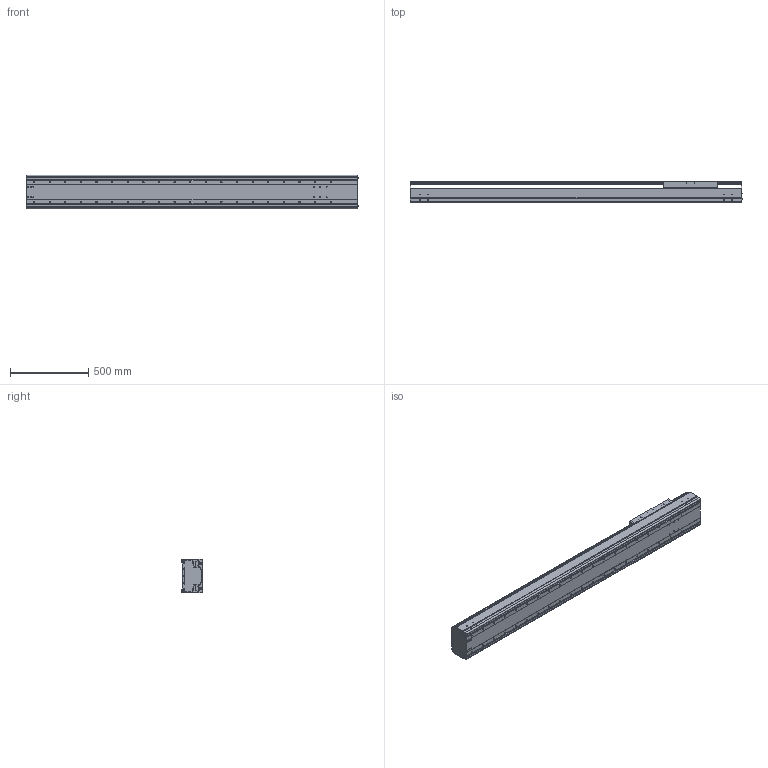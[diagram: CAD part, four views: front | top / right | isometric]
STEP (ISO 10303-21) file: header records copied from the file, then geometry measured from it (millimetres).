
FILE_DESCRIPTION((''),'2;1');
FILE_NAME('BE60J-ST-L_B-F5_IGS_PRT','2017-06-18T',(' '),(''),'PRO/ENGINEER BY PARAMETRIC TECHNOLOGY CORPORATION, 2015030','PRO/ENGINEER BY PARAMETRIC TECHNOLOGY CORPORATION, 2015030','');
FILE_SCHEMA(('CONFIG_CONTROL_DESIGN'));
Length unit declared in the file: millimetre
Products named in the file (1): BE60J-ST-L_B-F5_IGS_PRT
Bounding box: 2127.4 x 140 x 214 mm (x, y, z)
Volume: 16703657 mm3; surface area: 4410822.3 mm2
Topology: 2 solids, 32 shells, 1173 faces, 3084 edges, 1986 vertices
Faces by surface type: plane 541, cylinder 524, cone 60, torus 24, sphere 24
Entity records: 36561 total; most frequent: CARTESIAN_POINT 6840, DIRECTION 6386, ORIENTED_EDGE 5936, EDGE_CURVE 3024, AXIS2_PLACEMENT_3D 2310, VERTEX_POINT 1984, VECTOR 1766, LINE 1766
